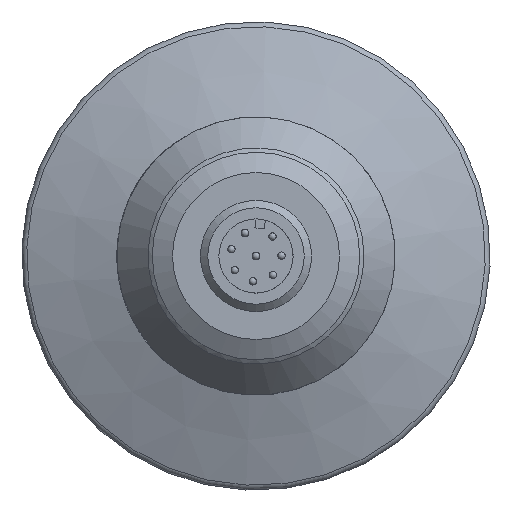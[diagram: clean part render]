
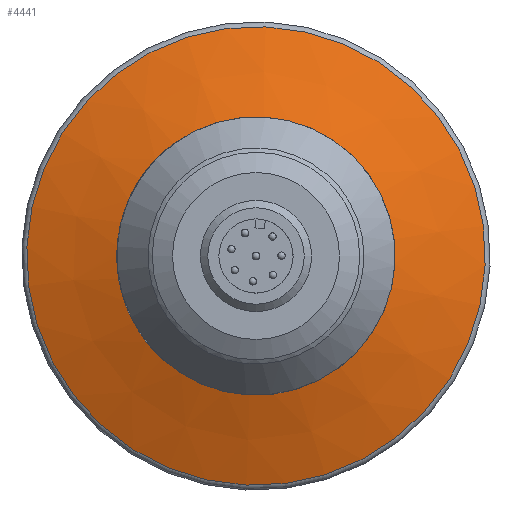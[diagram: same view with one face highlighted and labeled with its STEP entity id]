
A CAD part, front view. The second image highlights one B-rep face of the part: STEP entity #4441.
In plain terms, the highlighted conical face has half-angle 70 degrees and reference radius 24.724 mm.
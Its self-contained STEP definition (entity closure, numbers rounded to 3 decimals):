
#607=CONICAL_SURFACE('',#4657,24.724,1.222);
#709=ORIENTED_EDGE('',*,*,#1605,.T.);
#710=ORIENTED_EDGE('',*,*,#1604,.F.);
#1604=EDGE_CURVE('',#2054,#2054,#2361,.T.);
#1605=EDGE_CURVE('',#2055,#2055,#2362,.T.);
#2054=VERTEX_POINT('',#5445);
#2055=VERTEX_POINT('',#5448);
#2361=CIRCLE('',#4656,24.724);
#2362=CIRCLE('',#4658,15.);
#2465=EDGE_LOOP('',(#709));
#2466=EDGE_LOOP('',(#710));
#2730=FACE_BOUND('',#2465,.T.);
#2731=FACE_BOUND('',#2466,.T.);
#4441=ADVANCED_FACE('',(#2730,#2731),#607,.T.);
#4656=AXIS2_PLACEMENT_3D('',#5444,#4883,#4884);
#4657=AXIS2_PLACEMENT_3D('',#5446,#4885,#4886);
#4658=AXIS2_PLACEMENT_3D('',#5447,#4887,#4888);
#4883=DIRECTION('',(0.,1.,0.));
#4884=DIRECTION('',(-0.675,0.,-0.738));
#4885=DIRECTION('',(0.,1.,0.));
#4886=DIRECTION('',(-0.675,0.,-0.738));
#4887=DIRECTION('',(0.,1.,0.));
#4888=DIRECTION('',(-1.,0.,0.));
#5444=CARTESIAN_POINT('',(0.,3.815,0.));
#5445=CARTESIAN_POINT('',(-16.689,3.815,-18.241));
#5446=CARTESIAN_POINT('',(0.,3.815,0.));
#5447=CARTESIAN_POINT('',(0.,0.275,0.));
#5448=CARTESIAN_POINT('',(-15.,0.275,0.));
